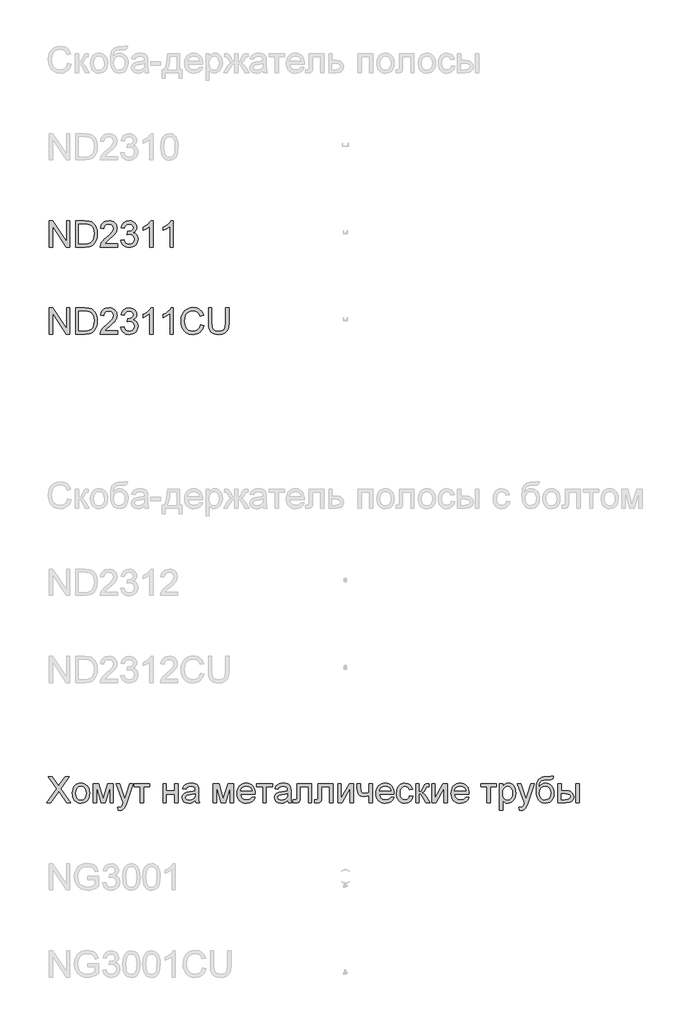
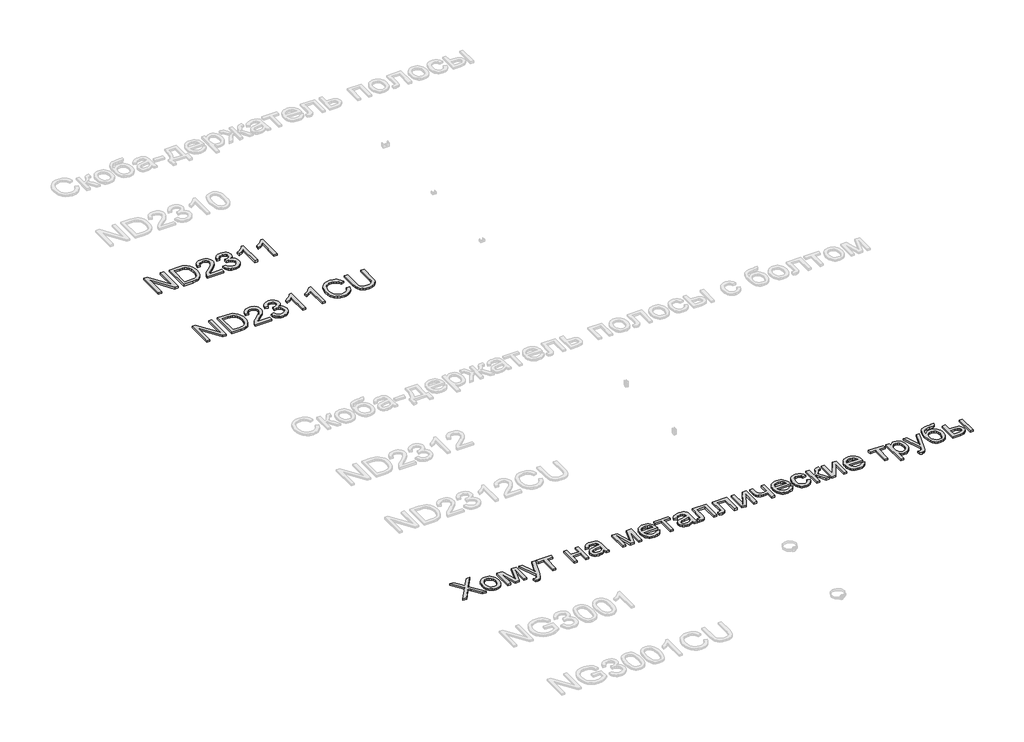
# One storey, part 105 of 124: 3 proxies.
"""IFC4 building model written with IfcOpenShell, lengths in millimetres."""

from ifc_helpers import new_model, si_unit, origin, origin_with_axes, place, context, project, spatial, polyline, outline, extrude, element, save

model = new_model("IFC4")

# Units and contexts
model_context = context("Model", 3, world=origin())
ifc_project = project(units=[si_unit("LENGTHUNIT", "METRE", prefix="MILLI")], contexts=[model_context])

# Site, building, storey
site = spatial("IfcSite", under=ifc_project)
building = spatial("IfcBuilding", under=site)
storey = spatial("IfcBuildingStorey", under=building, Name="Этаж 01", Elevation=0.0)

# Proxies
placement = place(None, origin())
element("IfcBuildingElementProxy", 1, Name="300", ObjectType="300", at=placement, inside=storey, context=model_context, shape_type="SweptSolid", body=[
    extrude(outline(polyline([(34161.4897718, -21050.5404686), (34161.4897718, -20749.1715382), (34201.8096385, -20749.1715382), (34359.2631324, -20987.9269531), (34359.2631324, -20749.1715382), (34396.9342487, -20749.1715382), (34396.9342487, -21050.5404686), (34356.6143821, -21050.5404686), (34199.1608881, -20811.7114774), (34199.1608881, -21050.5404686), (34161.4897718, -21050.5404686)])), origin_with_axes(), (0.0, 0.0, 1.0), 20.0),
    extrude(outline(polyline([(34462.8587023, -21050.5404686), (34462.8587023, -20749.1715382), (34566.8221541, -20749.1715382), (34620.6065018, -20753.5125457), (34644.6291961, -20761.8818611), (34664.899494, -20775.0704306), (34685.7400091, -20798.0262671), (34700.5840476, -20826.57391), (34709.4683977, -20860.1615361), (34712.4298478, -20898.2373226), (34710.4248909, -20930.5833471), (34704.4100203, -20959.0482164), (34695.2497586, -20983.2824429), (34683.8086286, -21002.9365385), (34670.6384532, -21018.4519616), (34656.2910553, -21030.2701707), (34639.819139, -21039.0349592), (34620.275408, -21045.3901207), (34571.8253492, -21050.5404686), (34462.8587023, -21050.5404686)]), holes=[polyline([(34500.5298186, -21012.8693523), (34567.1900361, -21012.8693523), (34594.7627916, -21011.508189), (34615.6768831, -21007.4246988), (34631.4590207, -21000.8580052), (34643.6359147, -20992.0472314), (34656.7233167, -20975.740862), (34666.554963, -20954.6336325), (34672.7077894, -20928.6335725), (34674.7587315, -20897.6487114), (34670.7396207, -20856.5930808), (34658.6822883, -20826.2796044), (34640.8676027, -20805.4574835), (34619.5764322, -20792.8759192), (34597.9081827, -20788.3509707), (34566.1599665, -20786.8426545), (34500.5298186, -20786.8426545), (34500.5298186, -21012.8693523)])]), origin_with_axes(), (0.0, 0.0, 1.0), 20.0),
    extrude(outline(polyline([(34943.1654352, -21012.8693523), (34943.1654352, -21050.5404686), (34745.3920746, -21050.5404686), (34749.4387765, -21024.5679998), (34758.7277969, -21004.2701107), (34772.3210366, -20984.5792269), (34791.9843293, -20963.9686381), (34819.4835084, -20940.9116341), (34860.1344689, -20904.8040162), (34884.5250452, -20878.1509657), (34896.7203333, -20856.5195044), (34900.7854293, -20835.4766543), (34896.9502595, -20816.613505), (34885.4447501, -20800.9325349), (34867.7588232, -20790.3651246), (34845.3824009, -20786.8426545), (34821.8839384, -20790.2823512), (34803.6277944, -20800.6014411), (34791.8463735, -20816.990584), (34787.7720804, -20838.6404394), (34750.1009641, -20833.9315499), (34759.2336346, -20797.4928383), (34767.7799932, -20782.9569009), (34778.9797007, -20770.8765759), (34792.5752397, -20761.3806219), (34808.3090928, -20754.5977976), (34846.1917413, -20749.1715382), (34866.381565, -20750.6798544), (34884.3503012, -20755.2048029), (34900.0979499, -20762.7463838), (34913.624511, -20773.3045971), (34924.4885261, -20786.0976935), (34932.248537, -20800.3439237), (34936.9045435, -20816.0432879), (34938.4565456, -20833.1957859), (34936.7826826, -20851.2128066), (34931.7610933, -20868.9171276), (34922.849152, -20886.9249513), (34909.5042326, -20905.8524799), (34888.2314563, -20928.4496315), (34855.5359439, -20957.4663239), (34812.1994449, -20993.7027004), (34795.2032967, -21012.8693523), (34943.1654352, -21012.8693523)])), origin_with_axes(), (0.0, 0.0, 1.0), 20.0),
    extrude(outline(polyline([(34980.8365515, -20970.4893465), (35018.5076678, -20965.7804569), (35026.9413625, -20989.4536633), (35039.2930005, -21005.438136), (35056.169587, -21014.5432154), (35078.1781274, -21017.5782419), (35104.0034435, -21013.4027812), (35123.9426476, -21000.8763993), (35136.6897587, -20982.1879939), (35140.9387958, -20959.526463), (35136.7265469, -20938.0145634), (35124.0898004, -20920.5677597), (35104.9599367, -20909.007068), (35081.2683362, -20905.1535041), (35054.8544089, -20909.2737825), (35059.0482637, -20871.6026662), (35065.0815284, -20872.0441246), (35087.6510888, -20869.3401919), (35107.8294162, -20861.2283939), (35122.0664494, -20847.5063955), (35126.8121272, -20827.9718616), (35123.3724305, -20811.7022803), (35113.0533406, -20798.5045137), (35097.3079912, -20789.7581193), (35077.5895162, -20786.8426545), (35057.8342531, -20789.7857105), (35041.6842335, -20798.6148783), (35029.8936155, -20813.3301581), (35023.2165573, -20833.9315499), (34985.545441, -20829.2226603), (34996.6370832, -20795.3959109), (35016.3739522, -20770.1408119), (35043.3764907, -20754.4138566), (35076.265141, -20749.1715382), (35099.9475445, -20751.7559092), (35121.6985674, -20759.5090223), (35140.0374849, -20771.7410986), (35153.4835718, -20787.7623595), (35161.7333256, -20806.2208386), (35164.4832435, -20825.7645696), (35161.8712813, -20843.9747283), (35154.0353948, -20860.4926299), (35141.0859486, -20874.5641162), (35123.1333072, -20885.4350292), (35146.7145431, -20894.9631729), (35164.1889379, -20911.1867689), (35175.0046685, -20933.2229004), (35178.6099121, -20960.1886506), (35176.8072903, -20979.3001203), (35171.399425, -20996.9032737), (35162.3863161, -21012.998111), (35149.7679637, -21027.5846321), (35134.3950948, -21039.6879498), (35117.1184366, -21048.3331767), (35097.9379891, -21053.5203128), (35076.8537522, -21055.2493582), (35057.7974649, -21053.7732317), (35040.4334347, -21049.3448522), (35024.7616617, -21041.9642196), (35010.7821459, -21031.6313341), (34999.0605058, -21018.9532008), (34990.1623601, -21004.5368251), (34984.0877086, -20988.382207), (34980.8365515, -20970.4893465)])), origin_with_axes(), (0.0, 0.0, 1.0), 20.0),
    extrude(outline(polyline([(35352.838825, -21050.5404686), (35315.1677087, -21050.5404686), (35315.1677087, -20815.6846029), (35279.4831552, -20841.1052488), (35239.8254761, -20860.1247479), (35239.8254761, -20824.5137708), (35269.4123856, -20808.4189335), (35295.0445636, -20789.2706757), (35315.2504822, -20768.9084072), (35328.5586133, -20749.1715382), (35352.838825, -20749.1715382), (35352.838825, -21050.5404686)])), origin_with_axes(), (0.0, 0.0, 1.0), 20.0),
    extrude(outline(polyline([(35583.5744124, -21050.5404686), (35545.9032961, -21050.5404686), (35545.9032961, -20815.6846029), (35510.2187425, -20841.1052488), (35470.5610635, -20860.1247479), (35470.5610635, -20824.5137708), (35500.1479729, -20808.4189335), (35525.7801509, -20789.2706757), (35545.9860695, -20768.9084072), (35559.2942007, -20749.1715382), (35583.5744124, -20749.1715382), (35583.5744124, -21050.5404686)])), origin_with_axes(), (0.0, 0.0, 1.0), 20.0),
])
element("IfcBuildingElementProxy", 2, Name="300", ObjectType="300", at=placement, inside=storey, context=model_context, shape_type="SweptSolid", body=[
    extrude(outline(polyline([(34161.4897718, -22050.5404686), (34161.4897718, -21749.1715382), (34201.8096385, -21749.1715382), (34359.2631324, -21987.9269531), (34359.2631324, -21749.1715382), (34396.9342487, -21749.1715382), (34396.9342487, -22050.5404686), (34356.6143821, -22050.5404686), (34199.1608881, -21811.7114774), (34199.1608881, -22050.5404686), (34161.4897718, -22050.5404686)])), origin_with_axes(), (0.0, 0.0, 1.0), 20.0),
    extrude(outline(polyline([(34462.8587023, -22050.5404686), (34462.8587023, -21749.1715382), (34566.8221541, -21749.1715382), (34620.6065018, -21753.5125457), (34644.6291961, -21761.8818611), (34664.899494, -21775.0704306), (34685.7400091, -21798.0262671), (34700.5840476, -21826.57391), (34709.4683977, -21860.1615361), (34712.4298478, -21898.2373226), (34710.4248909, -21930.5833471), (34704.4100203, -21959.0482164), (34695.2497586, -21983.2824429), (34683.8086286, -22002.9365385), (34670.6384532, -22018.4519616), (34656.2910553, -22030.2701707), (34639.819139, -22039.0349592), (34620.275408, -22045.3901207), (34571.8253492, -22050.5404686), (34462.8587023, -22050.5404686)]), holes=[polyline([(34500.5298186, -22012.8693523), (34567.1900361, -22012.8693523), (34594.7627916, -22011.508189), (34615.6768831, -22007.4246988), (34631.4590207, -22000.8580052), (34643.6359147, -21992.0472314), (34656.7233167, -21975.740862), (34666.554963, -21954.6336325), (34672.7077894, -21928.6335725), (34674.7587315, -21897.6487114), (34670.7396207, -21856.5930808), (34658.6822883, -21826.2796044), (34640.8676027, -21805.4574835), (34619.5764322, -21792.8759192), (34597.9081827, -21788.3509707), (34566.1599665, -21786.8426545), (34500.5298186, -21786.8426545), (34500.5298186, -22012.8693523)])]), origin_with_axes(), (0.0, 0.0, 1.0), 20.0),
    extrude(outline(polyline([(34943.1654352, -22012.8693523), (34943.1654352, -22050.5404686), (34745.3920746, -22050.5404686), (34749.4387765, -22024.5679998), (34758.7277969, -22004.2701107), (34772.3210366, -21984.5792269), (34791.9843293, -21963.9686381), (34819.4835084, -21940.9116341), (34860.1344689, -21904.8040162), (34884.5250452, -21878.1509657), (34896.7203333, -21856.5195044), (34900.7854293, -21835.4766543), (34896.9502595, -21816.613505), (34885.4447501, -21800.9325349), (34867.7588232, -21790.3651246), (34845.3824009, -21786.8426545), (34821.8839384, -21790.2823512), (34803.6277944, -21800.6014411), (34791.8463735, -21816.990584), (34787.7720804, -21838.6404394), (34750.1009641, -21833.9315499), (34759.2336346, -21797.4928383), (34767.7799932, -21782.9569009), (34778.9797007, -21770.8765759), (34792.5752397, -21761.3806219), (34808.3090928, -21754.5977976), (34846.1917413, -21749.1715382), (34866.381565, -21750.6798544), (34884.3503012, -21755.2048029), (34900.0979499, -21762.7463838), (34913.624511, -21773.3045971), (34924.4885261, -21786.0976935), (34932.248537, -21800.3439237), (34936.9045435, -21816.0432879), (34938.4565456, -21833.1957859), (34936.7826826, -21851.2128066), (34931.7610933, -21868.9171276), (34922.849152, -21886.9249513), (34909.5042326, -21905.8524799), (34888.2314563, -21928.4496315), (34855.5359439, -21957.4663239), (34812.1994449, -21993.7027004), (34795.2032967, -22012.8693523), (34943.1654352, -22012.8693523)])), origin_with_axes(), (0.0, 0.0, 1.0), 20.0),
    extrude(outline(polyline([(34980.8365515, -21970.4893465), (35018.5076678, -21965.7804569), (35026.9413625, -21989.4536633), (35039.2930005, -22005.438136), (35056.169587, -22014.5432154), (35078.1781274, -22017.5782419), (35104.0034435, -22013.4027812), (35123.9426476, -22000.8763993), (35136.6897587, -21982.1879939), (35140.9387958, -21959.526463), (35136.7265469, -21938.0145634), (35124.0898004, -21920.5677597), (35104.9599367, -21909.007068), (35081.2683362, -21905.1535041), (35054.8544089, -21909.2737825), (35059.0482637, -21871.6026662), (35065.0815284, -21872.0441246), (35087.6510888, -21869.3401919), (35107.8294162, -21861.2283939), (35122.0664494, -21847.5063955), (35126.8121272, -21827.9718616), (35123.3724305, -21811.7022803), (35113.0533406, -21798.5045137), (35097.3079912, -21789.7581193), (35077.5895162, -21786.8426545), (35057.8342531, -21789.7857105), (35041.6842335, -21798.6148783), (35029.8936155, -21813.3301581), (35023.2165573, -21833.9315499), (34985.545441, -21829.2226603), (34996.6370832, -21795.3959109), (35016.3739522, -21770.1408119), (35043.3764907, -21754.4138566), (35076.265141, -21749.1715382), (35099.9475445, -21751.7559092), (35121.6985674, -21759.5090223), (35140.0374849, -21771.7410986), (35153.4835718, -21787.7623595), (35161.7333256, -21806.2208386), (35164.4832435, -21825.7645696), (35161.8712813, -21843.9747283), (35154.0353948, -21860.4926299), (35141.0859486, -21874.5641162), (35123.1333072, -21885.4350292), (35146.7145431, -21894.9631729), (35164.1889379, -21911.1867689), (35175.0046685, -21933.2229004), (35178.6099121, -21960.1886506), (35176.8072903, -21979.3001203), (35171.399425, -21996.9032737), (35162.3863161, -22012.998111), (35149.7679637, -22027.5846321), (35134.3950948, -22039.6879498), (35117.1184366, -22048.3331767), (35097.9379891, -22053.5203128), (35076.8537522, -22055.2493582), (35057.7974649, -22053.7732317), (35040.4334347, -22049.3448522), (35024.7616617, -22041.9642196), (35010.7821459, -22031.6313341), (34999.0605058, -22018.9532008), (34990.1623601, -22004.5368251), (34984.0877086, -21988.382207), (34980.8365515, -21970.4893465)])), origin_with_axes(), (0.0, 0.0, 1.0), 20.0),
    extrude(outline(polyline([(35352.838825, -22050.5404686), (35315.1677087, -22050.5404686), (35315.1677087, -21815.6846029), (35279.4831552, -21841.1052488), (35239.8254761, -21860.1247479), (35239.8254761, -21824.5137708), (35269.4123856, -21808.4189335), (35295.0445636, -21789.2706757), (35315.2504822, -21768.9084072), (35328.5586133, -21749.1715382), (35352.838825, -21749.1715382), (35352.838825, -22050.5404686)])), origin_with_axes(), (0.0, 0.0, 1.0), 20.0),
    extrude(outline(polyline([(35583.5744124, -22050.5404686), (35545.9032961, -22050.5404686), (35545.9032961, -21815.6846029), (35510.2187425, -21841.1052488), (35470.5610635, -21860.1247479), (35470.5610635, -21824.5137708), (35500.1479729, -21808.4189335), (35525.7801509, -21789.2706757), (35545.9860695, -21768.9084072), (35559.2942007, -21749.1715382), (35583.5744124, -21749.1715382), (35583.5744124, -22050.5404686)])), origin_with_axes(), (0.0, 0.0, 1.0), 20.0),
    extrude(outline(polyline([(35899.0700114, -21943.4132316), (35936.7411278, -21953.1253163), (35929.2869188, -21976.5525016), (35919.3587035, -21997.0228354), (35906.9564817, -22014.5363176), (35892.0802535, -22029.0929483), (35875.0657113, -22040.5363776), (35856.2485472, -22048.7102557), (35835.6287614, -22053.6145826), (35813.2063538, -22055.2493582), (35769.5111698, -22050.3013453), (35734.8107006, -22035.4573068), (35708.2128324, -22011.2322775), (35688.8254512, -21978.141292), (35676.988848, -21939.237771), (35673.0433136, -21897.575135), (35677.5038828, -21853.6316307), (35690.8855904, -21815.6846029), (35712.4894605, -21784.9388652), (35741.6165175, -21762.599231), (35776.1606369, -21748.9967942), (35814.0156942, -21744.4626487), (35855.3196452, -21750.3303665), (35873.2883814, -21757.6650138), (35889.4682914, -21767.9335199), (35903.5926607, -21780.8645721), (35915.394775, -21796.1868572), (35932.0322382, -21834.0051263), (35894.3611219, -21842.981447), (35881.3013111, -21815.509859), (35863.4590343, -21796.6651038), (35840.6135624, -21785.7665997), (35812.5441662, -21782.133765), (35780.1889447, -21786.1620728), (35753.6094706, -21798.2469963), (35733.4403402, -21817.1193427), (35720.31615, -21841.509919), (35713.1148599, -21869.0826745), (35710.7144299, -21897.5015586), (35713.5563183, -21932.3031954), (35722.0819836, -21962.3959426), (35736.6133224, -21986.630169), (35757.4722315, -22003.8562435), (35782.4790101, -22014.1477423), (35809.4539574, -22017.5782419), (35840.898671, -22012.9061405), (35867.1010661, -21998.8898365), (35886.8839204, -21975.6764826), (35899.0700114, -21943.4132316)])), origin_with_axes(), (0.0, 0.0, 1.0), 20.0),
    extrude(outline(polyline([(36186.3122733, -21749.1715382), (36223.9833896, -21749.1715382), (36223.9833896, -21923.0325691), (36221.4266097, -21963.7479089), (36213.7562701, -21995.100652), (36199.4272664, -22019.2888931), (36176.8944942, -22038.5107274), (36146.1027712, -22051.0647005), (36106.9969151, -22055.2493582), (36068.7463847, -22051.6073264), (36038.1661938, -22040.6812312), (36015.2471455, -22022.8481515), (35999.9800427, -21998.4851663), (35991.3991952, -21965.8080481), (35988.5389127, -21923.0325691), (35988.5389127, -21749.1715382), (36026.210029, -21749.1715382), (36026.210029, -21921.7081939), (36028.0678331, -21955.5625345), (36033.6412453, -21979.1345734), (36043.7396061, -21995.4593369), (36059.1722557, -22007.5718516), (36079.2954009, -22015.0766443), (36103.465248, -22017.5782419), (36141.7801578, -22012.630229), (36156.1229571, -22006.445213), (36167.2559859, -21997.7861905), (36175.5931116, -21985.6092965), (36181.5482014, -21968.8706657), (36186.3122733, -21921.7081939), (36186.3122733, -21749.1715382)])), origin_with_axes(), (0.0, 0.0, 1.0), 20.0),
])
element("IfcBuildingElementProxy", 3, Name="300", ObjectType="300", at=placement, inside=storey, context=model_context, shape_type="SweptSolid", body=[
    extrude(outline(polyline([(34128.5275451, -27431.446857), (34244.7046791, -27267.2243343), (34147.3631032, -27130.0779265), (34192.5390122, -27130.0779265), (34247.3534295, -27207.2595691), (34265.8211057, -27237.3523163), (34287.452567, -27206.7445343), (34341.6783731, -27130.0779265), (34387.5164697, -27130.0779265), (34290.1748937, -27267.6657927), (34406.3520278, -27431.446857), (34361.1761188, -27431.446857), (34283.773747, -27322.2594808), (34267.6605156, -27299.5979499), (34249.9286035, -27324.4667728), (34174.3656417, -27431.446857), (34128.5275451, -27431.446857)])), origin_with_axes(), (0.0, 0.0, 1.0), 20.0),
    extrude(outline(polyline([(34425.187586, -27320.7879528), (34427.2247325, -27292.1253469), (34433.3361722, -27267.4266694), (34443.5219049, -27246.6919205), (34457.7819307, -27229.9211), (34472.1385256, -27219.2019384), (34487.9850425, -27211.5453944), (34505.3214816, -27206.951468), (34524.1478427, -27205.4201591), (34544.9308761, -27207.284861), (34563.7227483, -27212.8789666), (34580.5234592, -27222.2024759), (34595.3330087, -27235.255389), (34607.4202315, -27251.5962473), (34616.0539621, -27270.7835926), (34621.2342005, -27292.8174249), (34622.9609466, -27317.6977441), (34619.907526, -27355.7551365), (34610.7472643, -27384.7258436), (34595.746876, -27406.4216843), (34575.1730754, -27422.6544773), (34550.7365139, -27432.7804292), (34524.1478427, -27436.1557465), (34503.0613066, -27434.2979424), (34484.0946905, -27428.7245302), (34467.2479943, -27419.4355098), (34452.5212182, -27406.4308813), (34440.5627541, -27389.9313738), (34432.020994, -27370.1577166), (34426.895938, -27347.1099096), (34425.187586, -27320.7879528)]), holes=[polyline([(34462.8587023, -27320.7143764), (34467.2181039, -27354.8078403), (34480.2963088, -27379.0972491), (34499.9779956, -27393.6377849), (34524.1478427, -27398.4846302), (34548.2073252, -27393.6101938), (34567.8522237, -27378.9868845), (34580.9304286, -27354.375579), (34585.2898303, -27319.537154), (34580.9028375, -27286.4369715), (34567.7418591, -27262.4786566), (34548.0693694, -27247.9381207), (34524.1478427, -27243.0912755), (34499.9779956, -27247.9197266), (34480.2963088, -27262.4050802), (34467.2181039, -27286.6393066), (34462.8587023, -27320.7143764)])]), origin_with_axes(), (0.0, 0.0, 1.0), 20.0),
    extrude(outline(polyline([(34665.3409524, -27210.1290487), (34730.16176, -27210.1290487), (34780.1201349, -27387.3010176), (34833.978059, -27210.1290487), (34896.0765398, -27210.1290487), (34896.0765398, -27431.446857), (34858.4054235, -27431.446857), (34858.4054235, -27253.2448185), (34804.2531938, -27431.446857), (34754.8098537, -27431.446857), (34703.0120687, -27244.7099562), (34703.0120687, -27431.446857), (34665.3409524, -27431.446857), (34665.3409524, -27210.1290487)])), origin_with_axes(), (0.0, 0.0, 1.0), 20.0),
    extrude(outline(polyline([(34952.5832143, -27516.2068687), (34947.8743247, -27479.9337039), (34967.0041885, -27483.2446419), (34984.8832534, -27479.0875754), (34995.8461369, -27467.4992925), (35006.1468328, -27439.7609901), (35009.0898887, -27430.6375166), (34929.0387666, -27210.1290487), (34968.770022, -27210.1290487), (35011.2236043, -27333.0016351), (35026.0124605, -27382.1506696), (35040.8013167, -27338.7405942), (35084.4321213, -27210.1290487), (35123.8690712, -27210.1290487), (35046.8345814, -27436.7443577), (35026.8218009, -27485.8933923), (35016.5762873, -27501.5835594), (35004.9696104, -27512.4544723), (34991.4867352, -27518.8004367), (34975.6126272, -27520.9157582), (34952.5832143, -27516.2068687)])), origin_with_axes(), (0.0, 0.0, 1.0), 20.0),
    extrude(outline(polyline([(35136.2299063, -27210.1290487), (35315.1677087, -27210.1290487), (35315.1677087, -27247.800165), (35244.5343656, -27247.800165), (35244.5343656, -27431.446857), (35206.8632493, -27431.446857), (35206.8632493, -27247.800165), (35136.2299063, -27247.800165), (35136.2299063, -27210.1290487)])), origin_with_axes(), (0.0, 0.0, 1.0), 20.0),
    extrude(outline(polyline([(35465.8521739, -27210.1290487), (35503.5232902, -27210.1290487), (35503.5232902, -27294.8890604), (35602.4099705, -27294.8890604), (35602.4099705, -27210.1290487), (35640.0810868, -27210.1290487), (35640.0810868, -27431.446857), (35602.4099705, -27431.446857), (35602.4099705, -27332.5601767), (35503.5232902, -27332.5601767), (35503.5232902, -27431.446857), (35465.8521739, -27431.446857), (35465.8521739, -27210.1290487)])), origin_with_axes(), (0.0, 0.0, 1.0), 20.0),
    extrude(outline(polyline([(35837.8544475, -27403.1935198), (35819.8558208, -27418.6261695), (35801.3237653, -27428.7245302), (35781.8352166, -27434.2979424), (35760.9671105, -27436.1557465), (35729.4856087, -27431.6859803), (35706.2630578, -27418.2766816), (35691.9432511, -27397.9144131), (35687.1699822, -27372.5857378), (35688.972604, -27356.9691471), (35694.3804693, -27342.7872961), (35702.7221936, -27330.6471903), (35713.3263921, -27321.1558348), (35739.7035311, -27308.7949998), (35772.2978759, -27303.1296171), (35810.8151208, -27297.1699287), (35837.6337183, -27290.1801708), (35837.8544475, -27281.7924613), (35835.2608794, -27264.9802542), (35827.4801752, -27253.9805825), (35810.0793568, -27245.8136022), (35785.8359333, -27243.0912755), (35763.3951316, -27244.9030943), (35747.7233586, -27250.3385508), (35737.0363867, -27260.3909263), (35729.5499881, -27276.0535022), (35691.8788718, -27271.3446127), (35698.4179742, -27250.743221), (35708.1760442, -27234.5564132), (35722.0635895, -27222.177184), (35740.9911181, -27212.9985282), (35764.1400927, -27207.3147514), (35790.6919757, -27205.4201591), (35816.1586068, -27207.0940222), (35836.3461313, -27212.1156115), (35851.5672488, -27219.6663894), (35862.1346591, -27228.9278186), (35869.1428111, -27240.3781457), (35873.6861538, -27254.4956173), (35875.5255638, -27287.4578441), (35875.5255638, -27334.3260103), (35877.4385501, -27399.7722172), (35884.9433428, -27431.446857), (35847.2722265, -27431.446857), (35837.8544475, -27403.1935198)]), holes=[polyline([(35837.8544475, -27327.8512871), (35777.0803418, -27339.4027818), (35744.6699381, -27345.5096229), (35729.9914465, -27355.4424368), (35724.8410985, -27369.9369874), (35727.6461987, -27381.1389941), (35736.0614994, -27390.3176499), (35749.9030595, -27396.4428851), (35768.986938, -27398.4846302), (35789.2204477, -27396.231353), (35807.0995127, -27389.4715213), (35821.5940633, -27379.5111163), (35831.6740299, -27367.656119), (35836.1437962, -27355.4424368), (35837.6337183, -27338.519865), (35837.8544475, -27327.8512871)])]), origin_with_axes(), (0.0, 0.0, 1.0), 20.0),
    extrude(outline(polyline([(36045.0455871, -27210.1290487), (36109.8663947, -27210.1290487), (36159.8247696, -27387.3010176), (36213.6826937, -27210.1290487), (36275.7811745, -27210.1290487), (36275.7811745, -27431.446857), (36238.1100582, -27431.446857), (36238.1100582, -27253.2448185), (36183.9578285, -27431.446857), (36134.5144884, -27431.446857), (36082.7167034, -27244.7099562), (36082.7167034, -27431.446857), (36045.0455871, -27431.446857), (36045.0455871, -27210.1290487)])), origin_with_axes(), (0.0, 0.0, 1.0), 20.0),
    extrude(outline(polyline([(36487.2397453, -27365.5224034), (36524.1750977, -27370.231293), (36510.8669665, -27398.0615659), (36489.6309783, -27418.8652927), (36460.9453797, -27431.8331331), (36425.2884173, -27436.1557465), (36401.9141151, -27434.2910447), (36381.0873956, -27428.6969391), (36362.808259, -27419.3734298), (36347.0767052, -27406.3205167), (36334.4261631, -27389.9014834), (36325.3900616, -27370.4796133), (36319.9684007, -27348.0549065), (36318.1611804, -27322.6273628), (36319.9867948, -27296.3375957), (36325.463638, -27273.1656286), (36334.59171, -27253.1114613), (36347.3710108, -27236.1750939), (36363.0611779, -27222.71981), (36380.9218487, -27213.1088928), (36400.9530234, -27207.3423426), (36423.1547018, -27205.4201591), (36444.6413096, -27207.337744), (36464.0723767, -27213.0904987), (36481.4479032, -27222.6784232), (36496.767889, -27236.1015175), (36509.2735776, -27253.0010967), (36518.2062123, -27273.0184758), (36523.5657931, -27296.1536547), (36525.35232, -27322.4066336), (36525.1315908, -27332.5601767), (36355.8322967, -27332.5601767), (36362.353005, -27360.7583316), (36377.5005462, -27381.488482), (36399.3619337, -27394.2355932), (36426.0241813, -27398.4846302), (36446.0737501, -27396.5164615), (36462.9595337, -27390.6119555), (36476.6815321, -27380.4032302), (36487.2397453, -27365.5224034)]), holes=[polyline([(36355.8322967, -27294.8890604), (36487.6812037, -27294.8890604), (36482.5860381, -27274.9866444), (36472.5980419, -27260.7496112), (36450.6354868, -27247.5058594), (36423.007549, -27243.0912755), (36397.6144943, -27246.6137456), (36376.6176294, -27257.1811559), (36362.0219112, -27273.6530722), (36355.8322967, -27294.8890604)])]), origin_with_axes(), (0.0, 0.0, 1.0), 20.0),
    extrude(outline(polyline([(36544.1878782, -27210.1290487), (36723.1256806, -27210.1290487), (36723.1256806, -27247.800165), (36652.4923376, -27247.800165), (36652.4923376, -27431.446857), (36614.8212213, -27431.446857), (36614.8212213, -27247.800165), (36544.1878782, -27247.800165), (36544.1878782, -27210.1290487)])), origin_with_axes(), (0.0, 0.0, 1.0), 20.0),
    extrude(outline(polyline([(36897.3545936, -27403.1935198), (36879.3559669, -27418.6261695), (36860.8239114, -27428.7245302), (36841.3353627, -27434.2979424), (36820.4672566, -27436.1557465), (36788.9857548, -27431.6859803), (36765.7632039, -27418.2766816), (36751.4433972, -27397.9144131), (36746.6701283, -27372.5857378), (36748.4727501, -27356.9691471), (36753.8806154, -27342.7872961), (36762.2223397, -27330.6471903), (36772.8265382, -27321.1558348), (36799.2036772, -27308.7949998), (36831.798022, -27303.1296171), (36870.3152669, -27297.1699287), (36897.1338644, -27290.1801708), (36897.3545936, -27281.7924613), (36894.7610255, -27264.9802542), (36886.9803213, -27253.9805825), (36869.5795029, -27245.8136022), (36845.3360794, -27243.0912755), (36822.8952777, -27244.9030943), (36807.2235047, -27250.3385508), (36796.5365328, -27260.3909263), (36789.0501342, -27276.0535022), (36751.3790179, -27271.3446127), (36757.9181203, -27250.743221), (36767.6761903, -27234.5564132), (36781.5637356, -27222.177184), (36800.4912642, -27212.9985282), (36823.6402388, -27207.3147514), (36850.1921218, -27205.4201591), (36875.6587529, -27207.0940222), (36895.8462774, -27212.1156115), (36911.0673949, -27219.6663894), (36921.6348052, -27228.9278186), (36928.6429573, -27240.3781457), (36933.1862999, -27254.4956173), (36935.0257099, -27287.4578441), (36935.0257099, -27334.3260103), (36936.9386962, -27399.7722172), (36944.4434889, -27431.446857), (36906.7723726, -27431.446857), (36897.3545936, -27403.1935198)]), holes=[polyline([(36897.3545936, -27327.8512871), (36836.580488, -27339.4027818), (36804.1700842, -27345.5096229), (36789.4915926, -27355.4424368), (36784.3412446, -27369.9369874), (36787.1463449, -27381.1389941), (36795.5616455, -27390.3176499), (36809.4032056, -27396.4428851), (36828.4870841, -27398.4846302), (36848.7205938, -27396.231353), (36866.5996588, -27389.4715213), (36881.0942094, -27379.5111163), (36891.174176, -27367.656119), (36895.6439423, -27355.4424368), (36897.1338644, -27338.519865), (36897.3545936, -27327.8512871)])]), origin_with_axes(), (0.0, 0.0, 1.0), 20.0),
    extrude(outline(polyline([(37005.6590529, -27210.1290487), (37175.1790763, -27210.1290487), (37175.1790763, -27431.2261278), (37137.50796, -27431.2261278), (37137.50796, -27247.800165), (37043.3301692, -27247.800165), (37043.3301692, -27353.3822976), (37040.7917835, -27402.0898738), (37036.0369087, -27413.1171366), (37026.8490559, -27422.6544773), (37012.9063282, -27429.2487621), (36993.8868291, -27431.446857), (36963.2790471, -27429.5338706), (36963.2790471, -27393.7757407), (36980.1280425, -27393.7757407), (36997.1609789, -27391.4580841), (37003.9667958, -27384.1004442), (37005.6590529, -27351.248582), (37005.6590529, -27210.1290487)])), origin_with_axes(), (0.0, 0.0, 1.0), 20.0),
    extrude(outline(polyline([(37250.5213089, -27210.1290487), (37420.0413323, -27210.1290487), (37420.0413323, -27431.2261278), (37382.370216, -27431.2261278), (37382.370216, -27247.800165), (37288.1924252, -27247.800165), (37288.1924252, -27353.3822976), (37285.6540395, -27402.0898738), (37280.8991647, -27413.1171366), (37271.7113119, -27422.6544773), (37257.7685842, -27429.2487621), (37238.7490851, -27431.446857), (37208.1413031, -27429.5338706), (37208.1413031, -27393.7757407), (37224.9902985, -27393.7757407), (37242.0232348, -27391.4580841), (37248.8290518, -27384.1004442), (37250.5213089, -27351.248582), (37250.5213089, -27210.1290487)])), origin_with_axes(), (0.0, 0.0, 1.0), 20.0),
    extrude(outline(polyline([(37476.5480068, -27210.1290487), (37514.2191231, -27210.1290487), (37514.2191231, -27378.9133081), (37606.7782331, -27210.1290487), (37655.4858092, -27210.1290487), (37655.4858092, -27431.446857), (37617.8146929, -27431.446857), (37617.8146929, -27263.6926672), (37525.8441941, -27431.446857), (37476.5480068, -27431.446857), (37476.5480068, -27210.1290487)])), origin_with_axes(), (0.0, 0.0, 1.0), 20.0),
    extrude(outline(polyline([(37697.8658151, -27210.1290487), (37735.5369314, -27210.1290487), (37735.5369314, -27252.5826309), (37738.5903519, -27292.3874628), (37743.7866851, -27303.9573516), (37753.2688435, -27313.9453477), (37766.3654426, -27320.8431351), (37782.4050976, -27323.1423976), (37805.4529046, -27320.2913121), (37834.4236117, -27311.7380558), (37834.4236117, -27210.1290487), (37872.094728, -27210.1290487), (37872.094728, -27431.446857), (37834.4236117, -27431.446857), (37834.4236117, -27347.8640677), (37802.2707253, -27357.5761524), (37772.3251309, -27360.8135139), (37749.5440383, -27357.4381966), (37729.6140312, -27347.3122447), (37714.080214, -27332.2934622), (37704.487691, -27314.2396533), (37699.521284, -27293.6934439), (37697.8658151, -27271.1974599), (37697.8658151, -27210.1290487)])), origin_with_axes(), (0.0, 0.0, 1.0), 20.0),
    extrude(outline(polyline([(38083.5532988, -27365.5224034), (38120.4886511, -27370.231293), (38107.1805199, -27398.0615659), (38085.9445318, -27418.8652927), (38057.2589332, -27431.8331331), (38021.6019708, -27436.1557465), (37998.2276686, -27434.2910447), (37977.4009491, -27428.6969391), (37959.1218125, -27419.3734298), (37943.3902586, -27406.3205167), (37930.7397165, -27389.9014834), (37921.703615, -27370.4796133), (37916.2819541, -27348.0549065), (37914.4747338, -27322.6273628), (37916.3003482, -27296.3375957), (37921.7771914, -27273.1656286), (37930.9052634, -27253.1114613), (37943.6845642, -27236.1750939), (37959.3747313, -27222.71981), (37977.2354022, -27213.1088928), (37997.2665768, -27207.3423426), (38019.4682552, -27205.4201591), (38040.954863, -27207.337744), (38060.3859302, -27213.0904987), (38077.7614566, -27222.6784232), (38093.0814425, -27236.1015175), (38105.5871311, -27253.0010967), (38114.5197658, -27273.0184758), (38119.8793466, -27296.1536547), (38121.6658735, -27322.4066336), (38121.4451443, -27332.5601767), (37952.1458501, -27332.5601767), (37958.6665585, -27360.7583316), (37973.8140996, -27381.488482), (37995.6754872, -27394.2355932), (38022.3377348, -27398.4846302), (38042.3873035, -27396.5164615), (38059.2730871, -27390.6119555), (38072.9950855, -27380.4032302), (38083.5532988, -27365.5224034)]), holes=[polyline([(37952.1458501, -27294.8890604), (38083.9947572, -27294.8890604), (38078.8995916, -27274.9866444), (38068.9115954, -27260.7496112), (38046.9490403, -27247.5058594), (38019.3211025, -27243.0912755), (37993.9280477, -27246.6137456), (37972.9311829, -27257.1811559), (37958.3354647, -27273.6530722), (37952.1458501, -27294.8890604)])]), origin_with_axes(), (0.0, 0.0, 1.0), 20.0),
    extrude(outline(polyline([(38300.603676, -27351.3957348), (38338.2747923, -27356.1046244), (38327.7717613, -27389.6094771), (38308.0348923, -27414.9289554), (38280.9219892, -27430.8490487), (38248.2908562, -27436.1557465), (38227.1629334, -27434.3048402), (38208.2193099, -27428.7521214), (38191.4599858, -27419.4975899), (38176.884961, -27406.5412459), (38165.0874453, -27390.1268111), (38156.6606483, -27370.4980074), (38151.6045701, -27347.6548348), (38149.9192107, -27321.5972932), (38152.7978874, -27288.0740464), (38161.4339172, -27259.0205658), (38175.965256, -27235.5588916), (38196.5298595, -27218.8110638), (38221.131968, -27208.7678853), (38247.7758215, -27205.4201591), (38279.6068111, -27210.0186841), (38305.0550481, -27223.8142589), (38323.3111921, -27246.0711196), (38333.5659027, -27276.0535022), (38295.8947864, -27280.7623918), (38289.0613784, -27264.3272636), (38278.4203917, -27252.5458427), (38264.5604375, -27245.4549173), (38248.0701271, -27243.0912755), (38223.725536, -27247.7449827), (38204.4025342, -27261.7061044), (38191.7933788, -27285.7287987), (38187.590327, -27320.5672236), (38191.7014083, -27355.8746981), (38204.0346522, -27379.9801659), (38223.0081661, -27393.8585141), (38247.0400575, -27398.4846302), (38266.5470003, -27395.5967566), (38282.54067, -27386.9331356), (38294.1749381, -27372.2730381), (38300.603676, -27351.3957348)])), origin_with_axes(), (0.0, 0.0, 1.0), 20.0),
    extrude(outline(polyline([(38371.237019, -27210.1290487), (38408.9081353, -27210.1290487), (38408.9081353, -27304.3068394), (38424.2304204, -27302.6145823), (38434.1448402, -27297.5378107), (38442.9188258, -27284.2940589), (38454.8198083, -27258.1008609), (38471.9998975, -27224.0717763), (38487.1566357, -27212.9985282), (38514.7109972, -27210.1290487), (38521.9214843, -27210.1290487), (38521.9214843, -27248.0208942), (38511.7679412, -27247.800165), (38493.3738414, -27251.7732905), (38480.4243952, -27276.568537), (38465.2308688, -27303.3871345), (38443.9305013, -27316.5205217), (38455.868272, -27321.8226209), (38467.6956782, -27331.1806192), (38491.0193967, -27362.0643127), (38531.3392633, -27431.446857), (38488.5177991, -27431.446857), (38449.0072728, -27363.5358407), (38429.1416451, -27334.8042568), (38419.8526247, -27329.5895296), (38408.9081353, -27327.8512871), (38408.9081353, -27431.446857), (38371.237019, -27431.446857), (38371.237019, -27210.1290487)])), origin_with_axes(), (0.0, 0.0, 1.0), 20.0),
    extrude(outline(polyline([(38554.883711, -27210.1290487), (38592.5548273, -27210.1290487), (38592.5548273, -27378.9133081), (38685.1139373, -27210.1290487), (38733.8215135, -27210.1290487), (38733.8215135, -27431.446857), (38696.1503972, -27431.446857), (38696.1503972, -27263.6926672), (38604.1798984, -27431.446857), (38554.883711, -27431.446857), (38554.883711, -27210.1290487)])), origin_with_axes(), (0.0, 0.0, 1.0), 20.0),
    extrude(outline(polyline([(38945.2800843, -27365.5224034), (38982.2154366, -27370.231293), (38968.9073055, -27398.0615659), (38947.6713173, -27418.8652927), (38918.9857187, -27431.8331331), (38883.3287563, -27436.1557465), (38859.9544541, -27434.2910447), (38839.1277346, -27428.6969391), (38820.848598, -27419.3734298), (38805.1170441, -27406.3205167), (38792.466502, -27389.9014834), (38783.4304005, -27370.4796133), (38778.0087396, -27348.0549065), (38776.2015193, -27322.6273628), (38778.0271337, -27296.3375957), (38783.5039769, -27273.1656286), (38792.6320489, -27253.1114613), (38805.4113497, -27236.1750939), (38821.1015168, -27222.71981), (38838.9621877, -27213.1088928), (38858.9933623, -27207.3423426), (38881.1950408, -27205.4201591), (38902.6816485, -27207.337744), (38922.1127157, -27213.0904987), (38939.4882421, -27222.6784232), (38954.808228, -27236.1015175), (38967.3139166, -27253.0010967), (38976.2465513, -27273.0184758), (38981.6061321, -27296.1536547), (38983.392659, -27322.4066336), (38983.1719298, -27332.5601767), (38813.8726356, -27332.5601767), (38820.393344, -27360.7583316), (38835.5408851, -27381.488482), (38857.4022727, -27394.2355932), (38884.0645203, -27398.4846302), (38904.1140891, -27396.5164615), (38920.9998726, -27390.6119555), (38934.721871, -27380.4032302), (38945.2800843, -27365.5224034)]), holes=[polyline([(38813.8726356, -27294.8890604), (38945.7215427, -27294.8890604), (38940.6263771, -27274.9866444), (38930.6383809, -27260.7496112), (38908.6758258, -27247.5058594), (38881.047888, -27243.0912755), (38855.6548332, -27246.6137456), (38834.6579684, -27257.1811559), (38820.0622502, -27273.6530722), (38813.8726356, -27294.8890604)])]), origin_with_axes(), (0.0, 0.0, 1.0), 20.0),
    extrude(outline(polyline([(39119.9504556, -27210.1290487), (39298.8882581, -27210.1290487), (39298.8882581, -27247.800165), (39228.254915, -27247.800165), (39228.254915, -27431.446857), (39190.5837987, -27431.446857), (39190.5837987, -27247.800165), (39119.9504556, -27247.800165), (39119.9504556, -27210.1290487)])), origin_with_axes(), (0.0, 0.0, 1.0), 20.0),
    extrude(outline(polyline([(39331.8504848, -27516.2068687), (39331.8504848, -27210.1290487), (39369.5216011, -27210.1290487), (39369.5216011, -27247.064401), (39381.8088598, -27228.8450452), (39395.5676464, -27215.8312196), (39411.6073014, -27208.0229243), (39430.7371651, -27205.4201591), (39456.2129933, -27209.0621909), (39478.4882481, -27219.9882862), (39496.6248305, -27237.5362573), (39509.6846413, -27261.0439168), (39517.5757101, -27288.8006134), (39520.2060664, -27319.0956957), (39517.2354193, -27351.3129614), (39508.3234779, -27380.1273187), (39493.7553509, -27404.0764365), (39473.8161468, -27421.6979841), (39450.5935958, -27432.5413059), (39426.1754284, -27436.1557465), (39408.8573835, -27433.7369224), (39393.3971426, -27426.48045), (39380.1625879, -27415.5267636), (39369.5216011, -27402.0162974), (39369.5216011, -27516.2068687), (39331.8504848, -27516.2068687)]), holes=[polyline([(39369.5216011, -27322.5537864), (39373.5958942, -27356.3253536), (39385.8187735, -27379.9433777), (39403.8541883, -27393.8493171), (39425.366088, -27398.4846302), (39447.2274756, -27393.6837702), (39465.7227429, -27379.2811901), (39478.3318983, -27354.7986433), (39482.5349501, -27319.7578832), (39478.4330658, -27286.1702571), (39466.1274131, -27262.2211392), (39448.1195894, -27247.8737414), (39426.9111924, -27243.0912755), (39405.6200219, -27248.177244), (39386.9224195, -27263.4351498), (39373.8718057, -27288.3867461), (39369.5216011, -27322.5537864)])]), origin_with_axes(), (0.0, 0.0, 1.0), 20.0),
    extrude(outline(polyline([(39562.5860722, -27516.2068687), (39557.8771827, -27479.9337039), (39577.0070464, -27483.2446419), (39594.8861114, -27479.0875754), (39605.8489949, -27467.4992925), (39616.1496907, -27439.7609901), (39619.0927467, -27430.6375166), (39539.0416245, -27210.1290487), (39578.77288, -27210.1290487), (39621.2264622, -27333.0016351), (39636.0153185, -27382.1506696), (39650.8041747, -27338.7405942), (39694.4349793, -27210.1290487), (39733.8719292, -27210.1290487), (39656.8374394, -27436.7443577), (39636.8246588, -27485.8933923), (39626.5791453, -27501.5835594), (39614.9724683, -27512.4544723), (39601.4895932, -27518.8004367), (39585.6154851, -27520.9157582), (39562.5860722, -27516.2068687)])), origin_with_axes(), (0.0, 0.0, 1.0), 20.0),
    extrude(outline(polyline([(39920.4616771, -27125.369037), (39953.4239039, -27125.369037), (39949.8554485, -27143.2756931), (39943.7118192, -27154.7628084), (39935.195351, -27161.5594283), (39924.5083791, -27165.3945981), (39878.3759769, -27167.7490428), (39840.0702641, -27169.9195466), (39816.2407079, -27176.4310579), (39801.9852806, -27187.7250352), (39792.4019546, -27204.2429368), (39786.764163, -27226.1135214), (39784.3453389, -27253.4655477), (39799.4928801, -27232.4226976), (39816.9764719, -27217.4131122), (39836.8145085, -27208.4183974), (39859.0253839, -27205.4201591), (39879.5486007, -27207.3262477), (39898.2232105, -27213.0445135), (39915.0492133, -27222.5749564), (39930.026609, -27235.9175765), (39942.3230647, -27252.5113538), (39951.1062473, -27271.7952681), (39956.3761569, -27293.7693195), (39958.1327934, -27318.4335081), (39954.6471115, -27354.3939731), (39944.1900658, -27383.2543156), (39928.9505542, -27405.6859203), (39911.1174744, -27422.3601717), (39888.5295199, -27432.7068528), (39859.0253839, -27436.1557465), (39825.0238905, -27431.7135714), (39799.5388653, -27418.3870462), (39780.7860806, -27398.1351423), (39766.9813087, -27372.9168315), (39758.4832346, -27334.9422126), (39755.6505433, -27276.4213842), (39757.4370702, -27236.7568073), (39762.796651, -27204.1417692), (39771.7292857, -27178.5762698), (39784.2349743, -27160.0603091), (39800.447074, -27146.9430167), (39820.498942, -27137.5735222), (39844.3905783, -27131.9518254), (39872.121983, -27130.0779265), (39914.0605304, -27129.2317979), (39920.4616771, -27125.369037)]), holes=[polyline([(39920.4616771, -27317.2562857), (39916.378187, -27287.6141939), (39904.1277165, -27263.8766082), (39884.4460298, -27248.2876086), (39858.0688907, -27243.0912755), (39830.5697116, -27248.5819142), (39819.482668, -27255.4452127), (39810.170655, -27265.0538306), (39797.5339084, -27290.7044027), (39793.3216596, -27323.7310088), (39797.9753668, -27355.7459394), (39811.9364885, -27379.2444019), (39832.7218213, -27393.6745731), (39857.8481615, -27398.4846302), (39883.1032605, -27392.920415), (39903.097647, -27376.2277695), (39916.1206696, -27350.3564682), (39920.4616771, -27317.2562857)])]), origin_with_axes(), (0.0, 0.0, 1.0), 20.0),
    extrude(outline(polyline([(40212.4128285, -27210.1290487), (40250.0839448, -27210.1290487), (40250.0839448, -27431.446857), (40212.4128285, -27431.446857), (40212.4128285, -27210.1290487)])), origin_with_axes(), (0.0, 0.0, 1.0), 20.0),
    extrude(outline(polyline([(40005.2216888, -27210.1290487), (40042.8928051, -27210.1290487), (40042.8928051, -27290.1801708), (40089.4666657, -27290.1801708), (40129.722153, -27294.8982574), (40145.9388512, -27300.7958657), (40159.5481858, -27309.0525172), (40170.3156319, -27319.3831035), (40178.0066649, -27331.5025159), (40182.6212847, -27345.4107546), (40184.1594913, -27361.1078195), (40178.9999463, -27388.0643727), (40163.5213113, -27410.8086771), (40151.6594163, -27419.8378808), (40136.7119109, -27426.287312), (40097.5600696, -27431.446857), (40005.2216888, -27431.446857), (40005.2216888, -27210.1290487)]), holes=[polyline([(40042.8928051, -27393.7757407), (40081.593991, -27393.7757407), (40111.5947677, -27391.798375), (40131.552366, -27385.8662778), (40142.7543727, -27375.7403259), (40146.488375, -27361.1813959), (40143.7200629, -27348.8757432), (40135.4151269, -27338.0048302), (40117.6556236, -27330.3896729), (40086.5236097, -27327.8512871), (40042.8928051, -27327.8512871), (40042.8928051, -27393.7757407)])]), origin_with_axes(), (0.0, 0.0, 1.0), 20.0),
])

save(model, "model.ifc")
